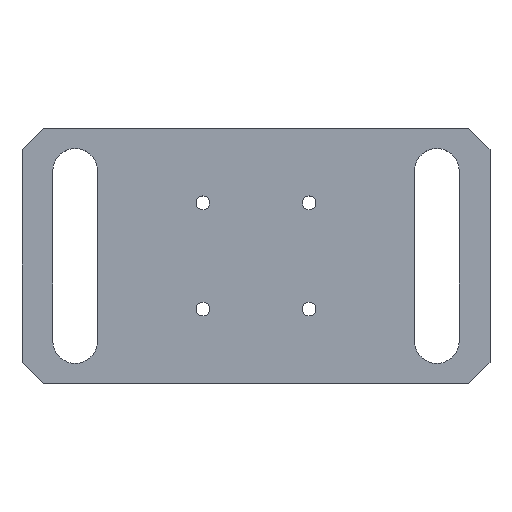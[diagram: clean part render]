
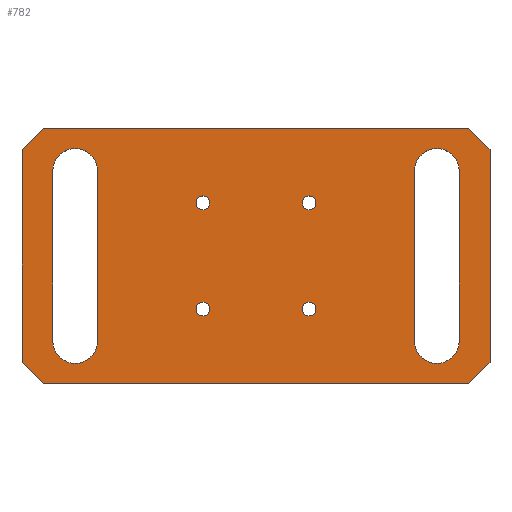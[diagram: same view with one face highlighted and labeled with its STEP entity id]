
A CAD part, top view. The second image highlights one B-rep face of the part: STEP entity #782.
In plain terms, the highlighted planar face has unit normal (0, 0, 1).
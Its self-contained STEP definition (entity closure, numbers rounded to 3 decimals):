
#86=AXIS2_PLACEMENT_3D('Circle Axis2P3D',#84,#85,$) ;
#188=AXIS2_PLACEMENT_3D('Circle Axis2P3D',#186,#187,$) ;
#248=AXIS2_PLACEMENT_3D('Circle Axis2P3D',#246,#247,$) ;
#281=AXIS2_PLACEMENT_3D('Circle Axis2P3D',#279,#280,$) ;
#305=AXIS2_PLACEMENT_3D('Circle Axis2P3D',#303,#304,$) ;
#338=AXIS2_PLACEMENT_3D('Circle Axis2P3D',#336,#337,$) ;
#362=AXIS2_PLACEMENT_3D('Circle Axis2P3D',#360,#361,$) ;
#395=AXIS2_PLACEMENT_3D('Circle Axis2P3D',#393,#394,$) ;
#419=AXIS2_PLACEMENT_3D('Circle Axis2P3D',#417,#418,$) ;
#452=AXIS2_PLACEMENT_3D('Circle Axis2P3D',#450,#451,$) ;
#476=AXIS2_PLACEMENT_3D('Circle Axis2P3D',#474,#475,$) ;
#498=AXIS2_PLACEMENT_3D('Circle Axis2P3D',#496,#497,$) ;
#737=AXIS2_PLACEMENT_3D('Plane Axis2P3D',#734,#735,#736) ;
#50=CARTESIAN_POINT('Vertex',(17.75,-50.,8.)) ;
#53=CARTESIAN_POINT('Line Origine',(17.75,-30.,8.)) ;
#57=CARTESIAN_POINT('Vertex',(17.75,-10.,8.)) ;
#84=CARTESIAN_POINT('Axis2P3D Location',(12.5,-10.,8.)) ;
#88=CARTESIAN_POINT('Vertex',(7.25,-10.,8.)) ;
#115=CARTESIAN_POINT('Line Origine',(7.25,-30.,8.)) ;
#119=CARTESIAN_POINT('Vertex',(7.25,-50.,8.)) ;
#152=CARTESIAN_POINT('Vertex',(102.75,-50.,8.)) ;
#155=CARTESIAN_POINT('Line Origine',(102.75,-30.,8.)) ;
#159=CARTESIAN_POINT('Vertex',(102.75,-10.,8.)) ;
#186=CARTESIAN_POINT('Axis2P3D Location',(97.5,-10.,8.)) ;
#190=CARTESIAN_POINT('Vertex',(92.25,-10.,8.)) ;
#217=CARTESIAN_POINT('Line Origine',(92.25,-30.,8.)) ;
#221=CARTESIAN_POINT('Vertex',(92.25,-50.,8.)) ;
#246=CARTESIAN_POINT('Axis2P3D Location',(97.5,-50.,8.)) ;
#276=CARTESIAN_POINT('Vertex',(65.9,-42.5,8.)) ;
#279=CARTESIAN_POINT('Axis2P3D Location',(67.5,-42.5,8.)) ;
#283=CARTESIAN_POINT('Vertex',(69.1,-42.5,8.)) ;
#303=CARTESIAN_POINT('Axis2P3D Location',(67.5,-42.5,8.)) ;
#333=CARTESIAN_POINT('Vertex',(65.9,-17.5,8.)) ;
#336=CARTESIAN_POINT('Axis2P3D Location',(67.5,-17.5,8.)) ;
#340=CARTESIAN_POINT('Vertex',(69.1,-17.5,8.)) ;
#360=CARTESIAN_POINT('Axis2P3D Location',(67.5,-17.5,8.)) ;
#390=CARTESIAN_POINT('Vertex',(40.9,-42.5,8.)) ;
#393=CARTESIAN_POINT('Axis2P3D Location',(42.5,-42.5,8.)) ;
#397=CARTESIAN_POINT('Vertex',(44.1,-42.5,8.)) ;
#417=CARTESIAN_POINT('Axis2P3D Location',(42.5,-42.5,8.)) ;
#447=CARTESIAN_POINT('Vertex',(40.9,-17.5,8.)) ;
#450=CARTESIAN_POINT('Axis2P3D Location',(42.5,-17.5,8.)) ;
#454=CARTESIAN_POINT('Vertex',(44.1,-17.5,8.)) ;
#474=CARTESIAN_POINT('Axis2P3D Location',(42.5,-17.5,8.)) ;
#496=CARTESIAN_POINT('Axis2P3D Location',(12.5,-50.,8.)) ;
#513=CARTESIAN_POINT('Line Origine',(107.5,-2.5,8.)) ;
#517=CARTESIAN_POINT('Vertex',(105.,0.,8.)) ;
#519=CARTESIAN_POINT('Vertex',(110.,-5.,8.)) ;
#560=CARTESIAN_POINT('Line Origine',(110.,-30.,8.)) ;
#564=CARTESIAN_POINT('Vertex',(110.,-55.,8.)) ;
#590=CARTESIAN_POINT('Vertex',(105.,-60.,8.)) ;
#598=CARTESIAN_POINT('Line Origine',(107.5,-57.5,8.)) ;
#621=CARTESIAN_POINT('Vertex',(5.,0.,8.)) ;
#624=CARTESIAN_POINT('Line Origine',(55.,0.,8.)) ;
#657=CARTESIAN_POINT('Vertex',(0.,-5.,8.)) ;
#660=CARTESIAN_POINT('Line Origine',(2.5,-2.5,8.)) ;
#683=CARTESIAN_POINT('Vertex',(5.,-60.,8.)) ;
#691=CARTESIAN_POINT('Line Origine',(55.,-60.,8.)) ;
#708=CARTESIAN_POINT('Line Origine',(0.,-30.,8.)) ;
#712=CARTESIAN_POINT('Vertex',(0.,-55.,8.)) ;
#734=CARTESIAN_POINT('Axis2P3D Location',(0.,0.,8.)) ;
#739=CARTESIAN_POINT('Line Origine',(2.5,-57.5,8.)) ;
#54=DIRECTION('Vector Direction',(0.,-1.,0.)) ;
#85=DIRECTION('Axis2P3D Direction',(0.,0.,1.)) ;
#116=DIRECTION('Vector Direction',(0.,1.,0.)) ;
#156=DIRECTION('Vector Direction',(0.,-1.,0.)) ;
#187=DIRECTION('Axis2P3D Direction',(0.,0.,1.)) ;
#218=DIRECTION('Vector Direction',(0.,1.,0.)) ;
#247=DIRECTION('Axis2P3D Direction',(0.,0.,1.)) ;
#280=DIRECTION('Axis2P3D Direction',(0.,0.,1.)) ;
#304=DIRECTION('Axis2P3D Direction',(0.,0.,1.)) ;
#337=DIRECTION('Axis2P3D Direction',(0.,0.,1.)) ;
#361=DIRECTION('Axis2P3D Direction',(0.,0.,1.)) ;
#394=DIRECTION('Axis2P3D Direction',(0.,0.,1.)) ;
#418=DIRECTION('Axis2P3D Direction',(0.,0.,1.)) ;
#451=DIRECTION('Axis2P3D Direction',(0.,0.,1.)) ;
#475=DIRECTION('Axis2P3D Direction',(0.,0.,1.)) ;
#497=DIRECTION('Axis2P3D Direction',(0.,0.,1.)) ;
#514=DIRECTION('Vector Direction',(0.707,-0.707,0.)) ;
#561=DIRECTION('Vector Direction',(0.,1.,0.)) ;
#599=DIRECTION('Vector Direction',(0.707,0.707,0.)) ;
#625=DIRECTION('Vector Direction',(1.,0.,0.)) ;
#661=DIRECTION('Vector Direction',(-0.707,-0.707,0.)) ;
#692=DIRECTION('Vector Direction',(-1.,0.,0.)) ;
#709=DIRECTION('Vector Direction',(0.,-1.,0.)) ;
#735=DIRECTION('Axis2P3D Direction',(0.,0.,1.)) ;
#736=DIRECTION('Axis2P3D XDirection',(1.,0.,0.)) ;
#740=DIRECTION('Vector Direction',(0.707,-0.707,0.)) ;
#55=VECTOR('Line Direction',#54,1.) ;
#117=VECTOR('Line Direction',#116,1.) ;
#157=VECTOR('Line Direction',#156,1.) ;
#219=VECTOR('Line Direction',#218,1.) ;
#515=VECTOR('Line Direction',#514,1.) ;
#562=VECTOR('Line Direction',#561,1.) ;
#600=VECTOR('Line Direction',#599,1.) ;
#626=VECTOR('Line Direction',#625,1.) ;
#662=VECTOR('Line Direction',#661,1.) ;
#693=VECTOR('Line Direction',#692,1.) ;
#710=VECTOR('Line Direction',#709,1.) ;
#741=VECTOR('Line Direction',#740,1.) ;
#745=ORIENTED_EDGE('',*,*,#695,.T.) ;
#746=ORIENTED_EDGE('',*,*,#602,.F.) ;
#747=ORIENTED_EDGE('',*,*,#566,.T.) ;
#748=ORIENTED_EDGE('',*,*,#521,.F.) ;
#749=ORIENTED_EDGE('',*,*,#628,.T.) ;
#750=ORIENTED_EDGE('',*,*,#664,.F.) ;
#751=ORIENTED_EDGE('',*,*,#714,.T.) ;
#752=ORIENTED_EDGE('',*,*,#743,.F.) ;
#755=ORIENTED_EDGE('',*,*,#478,.F.) ;
#756=ORIENTED_EDGE('',*,*,#456,.F.) ;
#759=ORIENTED_EDGE('',*,*,#421,.F.) ;
#760=ORIENTED_EDGE('',*,*,#399,.F.) ;
#763=ORIENTED_EDGE('',*,*,#364,.F.) ;
#764=ORIENTED_EDGE('',*,*,#342,.F.) ;
#767=ORIENTED_EDGE('',*,*,#307,.F.) ;
#768=ORIENTED_EDGE('',*,*,#285,.F.) ;
#771=ORIENTED_EDGE('',*,*,#500,.F.) ;
#772=ORIENTED_EDGE('',*,*,#121,.F.) ;
#773=ORIENTED_EDGE('',*,*,#90,.F.) ;
#774=ORIENTED_EDGE('',*,*,#59,.F.) ;
#777=ORIENTED_EDGE('',*,*,#250,.F.) ;
#778=ORIENTED_EDGE('',*,*,#223,.F.) ;
#779=ORIENTED_EDGE('',*,*,#192,.F.) ;
#780=ORIENTED_EDGE('',*,*,#161,.F.) ;
#757=FACE_BOUND('',#754,.T.) ;
#761=FACE_BOUND('',#758,.T.) ;
#765=FACE_BOUND('',#762,.T.) ;
#769=FACE_BOUND('',#766,.T.) ;
#775=FACE_BOUND('',#770,.T.) ;
#781=FACE_BOUND('',#776,.T.) ;
#782=ADVANCED_FACE('\X2\96F64EF651E04F554F53\X0\',(#753,#757,#761,#765,#769,#775,#781),#738,.T.) ;
#87=CIRCLE('generated circle',#86,5.25) ;
#189=CIRCLE('generated circle',#188,5.25) ;
#249=CIRCLE('generated circle',#248,5.25) ;
#282=CIRCLE('generated circle',#281,1.6) ;
#306=CIRCLE('generated circle',#305,1.6) ;
#339=CIRCLE('generated circle',#338,1.6) ;
#363=CIRCLE('generated circle',#362,1.6) ;
#396=CIRCLE('generated circle',#395,1.6) ;
#420=CIRCLE('generated circle',#419,1.6) ;
#453=CIRCLE('generated circle',#452,1.6) ;
#477=CIRCLE('generated circle',#476,1.6) ;
#499=CIRCLE('generated circle',#498,5.25) ;
#59=EDGE_CURVE('',#51,#58,#56,.F.) ;
#90=EDGE_CURVE('',#58,#89,#87,.T.) ;
#121=EDGE_CURVE('',#89,#120,#118,.F.) ;
#161=EDGE_CURVE('',#153,#160,#158,.F.) ;
#192=EDGE_CURVE('',#160,#191,#189,.T.) ;
#223=EDGE_CURVE('',#191,#222,#220,.F.) ;
#250=EDGE_CURVE('',#222,#153,#249,.T.) ;
#285=EDGE_CURVE('',#277,#284,#282,.T.) ;
#307=EDGE_CURVE('',#284,#277,#306,.T.) ;
#342=EDGE_CURVE('',#334,#341,#339,.T.) ;
#364=EDGE_CURVE('',#341,#334,#363,.T.) ;
#399=EDGE_CURVE('',#391,#398,#396,.T.) ;
#421=EDGE_CURVE('',#398,#391,#420,.T.) ;
#456=EDGE_CURVE('',#448,#455,#453,.T.) ;
#478=EDGE_CURVE('',#455,#448,#477,.T.) ;
#500=EDGE_CURVE('',#120,#51,#499,.T.) ;
#521=EDGE_CURVE('',#518,#520,#516,.T.) ;
#566=EDGE_CURVE('',#565,#520,#563,.T.) ;
#602=EDGE_CURVE('',#565,#591,#601,.F.) ;
#628=EDGE_CURVE('',#518,#622,#627,.F.) ;
#664=EDGE_CURVE('',#658,#622,#663,.F.) ;
#695=EDGE_CURVE('',#684,#591,#694,.F.) ;
#714=EDGE_CURVE('',#658,#713,#711,.T.) ;
#743=EDGE_CURVE('',#684,#713,#742,.F.) ;
#744=EDGE_LOOP('',(#745,#746,#747,#748,#749,#750,#751,#752)) ;
#754=EDGE_LOOP('',(#755,#756)) ;
#758=EDGE_LOOP('',(#759,#760)) ;
#762=EDGE_LOOP('',(#763,#764)) ;
#766=EDGE_LOOP('',(#767,#768)) ;
#770=EDGE_LOOP('',(#771,#772,#773,#774)) ;
#776=EDGE_LOOP('',(#777,#778,#779,#780)) ;
#753=FACE_OUTER_BOUND('',#744,.T.) ;
#56=LINE('Line',#53,#55) ;
#118=LINE('Line',#115,#117) ;
#158=LINE('Line',#155,#157) ;
#220=LINE('Line',#217,#219) ;
#516=LINE('Line',#513,#515) ;
#563=LINE('Line',#560,#562) ;
#601=LINE('Line',#598,#600) ;
#627=LINE('Line',#624,#626) ;
#663=LINE('Line',#660,#662) ;
#694=LINE('Line',#691,#693) ;
#711=LINE('Line',#708,#710) ;
#742=LINE('Line',#739,#741) ;
#738=PLANE('',#737) ;
#51=VERTEX_POINT('',#50) ;
#58=VERTEX_POINT('',#57) ;
#89=VERTEX_POINT('',#88) ;
#120=VERTEX_POINT('',#119) ;
#153=VERTEX_POINT('',#152) ;
#160=VERTEX_POINT('',#159) ;
#191=VERTEX_POINT('',#190) ;
#222=VERTEX_POINT('',#221) ;
#277=VERTEX_POINT('',#276) ;
#284=VERTEX_POINT('',#283) ;
#334=VERTEX_POINT('',#333) ;
#341=VERTEX_POINT('',#340) ;
#391=VERTEX_POINT('',#390) ;
#398=VERTEX_POINT('',#397) ;
#448=VERTEX_POINT('',#447) ;
#455=VERTEX_POINT('',#454) ;
#518=VERTEX_POINT('',#517) ;
#520=VERTEX_POINT('',#519) ;
#565=VERTEX_POINT('',#564) ;
#591=VERTEX_POINT('',#590) ;
#622=VERTEX_POINT('',#621) ;
#658=VERTEX_POINT('',#657) ;
#684=VERTEX_POINT('',#683) ;
#713=VERTEX_POINT('',#712) ;
